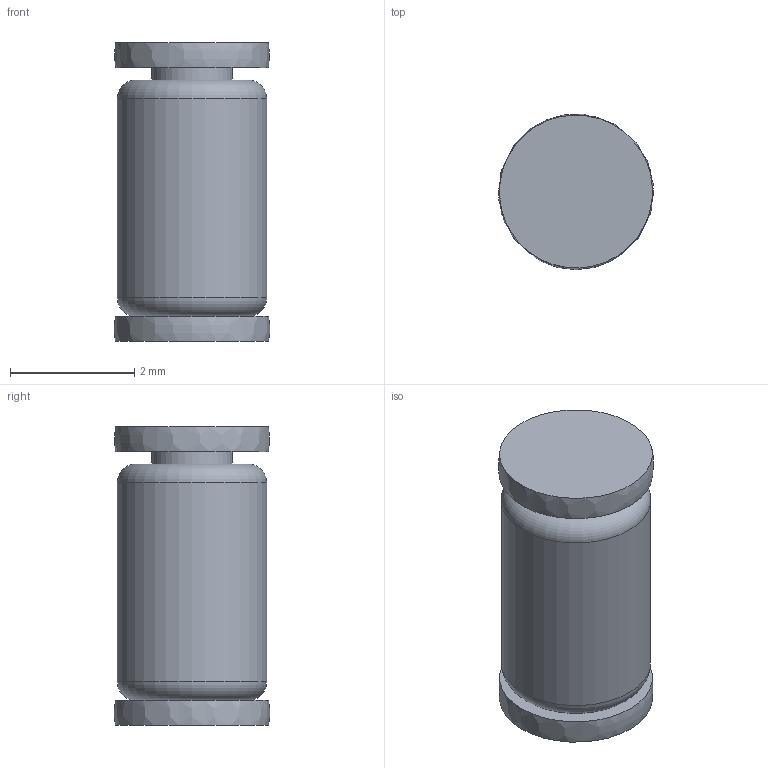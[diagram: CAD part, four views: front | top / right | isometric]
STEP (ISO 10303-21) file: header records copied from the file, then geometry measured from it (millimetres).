
FILE_DESCRIPTION(/* description */ (''),/* implementation_level */ '2;1');
FILE_NAME(/* name */ 'P9.9_Melf Glas.stp',/* time_stamp */ '2020-07-06T16:06:31+02:00',/* author */ (''),/* organization */ (''),/* preprocessor_version */ 'ST-DEVELOPER v14',/* originating_system */ 'SIEMENS PLM Software NX 8.0',/* authorisation */ '');
FILE_SCHEMA (('AUTOMOTIVE_DESIGN { 1 0 10303 214 3 1 1 1 }'));
Length unit declared in the file: millimetre
Products named in the file (1): P9.9_Melf Glas_Body1
Bounding box: 2.5 x 2.5 x 4.8 mm (x, y, z)
Volume: 21.1 mm3; surface area: 61.8 mm2
Topology: 3 solids, 3 shells, 13 faces, 16 edges, 10 vertices
Faces by surface type: plane 7, cylinder 2, torus 2, bspline 2
Full cylindrical faces by diameter (mm): 1.3 x1, 2.4 x1
Entity records: 389 total; most frequent: CARTESIAN_POINT 92, DIRECTION 44, AXIS2_PLACEMENT_3D 22, EDGE_LOOP 20, ORIENTED_EDGE 20, PROPERTY_DEFINITION 17, PROPERTY_DEFINITION_REPRESENTATION 14, REPRESENTATION 14
